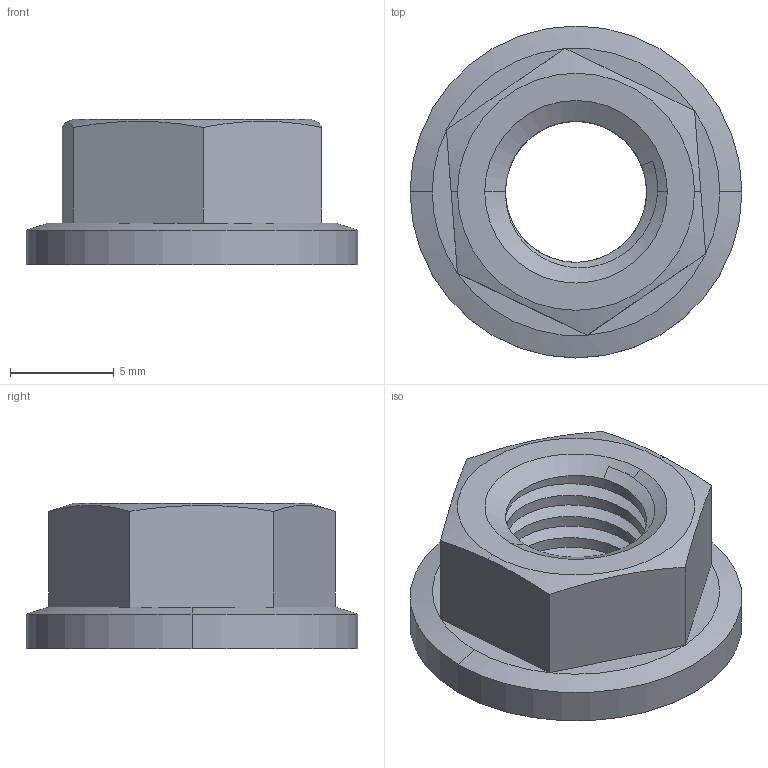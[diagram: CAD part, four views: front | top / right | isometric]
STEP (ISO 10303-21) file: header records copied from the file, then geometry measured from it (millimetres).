
FILE_DESCRIPTION (( 'STEP AP203' ), '1' );
FILE_NAME ('124-CE-FN-8.STEP', '2015-07-09T08:56:08', ( '' ), ( '' ), 'SwSTEP 2.0', 'SolidWorks 2013', '' );
FILE_SCHEMA (( 'CONFIG_CONTROL_DESIGN' ));
Length unit declared in the file: millimetre
Products named in the file (1): 124-CE-FN-8
Bounding box: 16 x 16 x 7 mm (x, y, z)
Volume: 725.3 mm3; surface area: 830.2 mm2
Topology: 1 solids, 1 shells, 39 faces, 95 edges, 58 vertices
Faces by surface type: plane 14, cylinder 13, cone 10, bspline 2
Entity records: 1961 total; most frequent: CARTESIAN_POINT 1057, ORIENTED_EDGE 190, DIRECTION 155, EDGE_CURVE 95, AXIS2_PLACEMENT_3D 61, VERTEX_POINT 58, EDGE_LOOP 41, FACE_OUTER_BOUND 39
